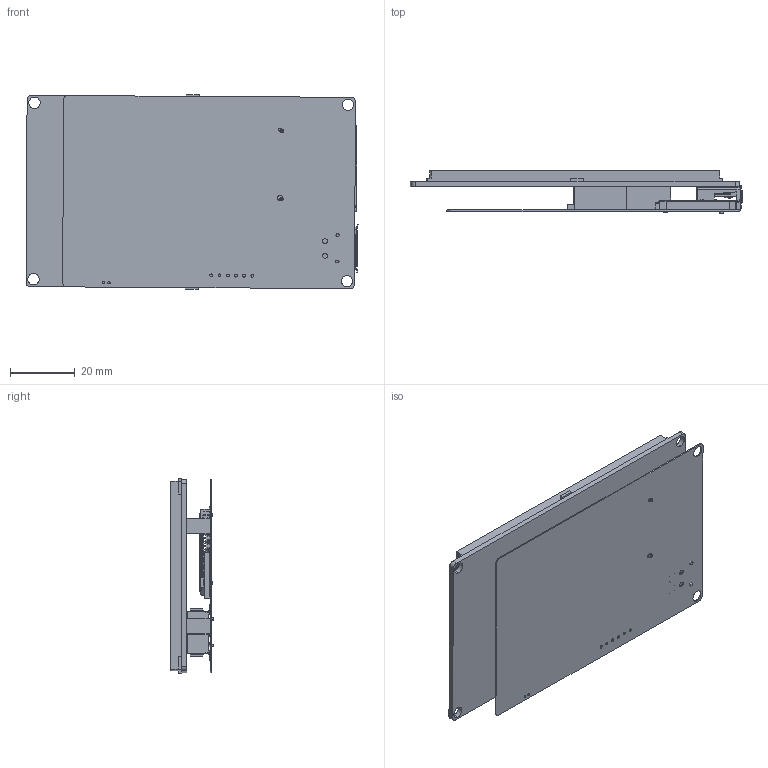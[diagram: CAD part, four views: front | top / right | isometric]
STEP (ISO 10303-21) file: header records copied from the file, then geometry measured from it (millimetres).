
FILE_DESCRIPTION (( 'STEP AP214' ), '1' );
FILE_NAME ('TFT38all.STEP', '2017-06-11T08:09:46', ( '' ), ( '' ), 'SwSTEP 2.0', 'SolidWorks 2016', '' );
FILE_SCHEMA (( 'AUTOMOTIVE_DESIGN' ));
Length unit declared in the file: millimetre
Products named in the file (12): Board_1; USBA_1; U13; Screen207V1; TFT3.8; Extruded_1; U_DISK; U3; 487667936; TFT38all; sd_big_1; 脣釱
Assembly tree (11 placements, depth 5):
  TFT38all
    Screen207V1
      Board_1
      U13
        sd_big_1
      U_DISK
        USBA_1
      U3
        487667936
          Extruded_1
      脣釱
    TFT3.8
Bounding box: 102.41 x 13.25 x 60.02 mm (x, y, z)
Volume: 31672.3 mm3; surface area: 29795.1 mm2
Topology: 7 solids, 7 shells, 922 faces, 2599 edges, 1714 vertices
Faces by surface type: plane 762, cylinder 156, bspline 4
Entity records: 37000 total; most frequent: CARTESIAN_POINT 5362, ORIENTED_EDGE 5198, DIRECTION 4774, EDGE_CURVE 2599, LINE 2266, VECTOR 2266, VERTEX_POINT 1714, AXIS2_PLACEMENT_3D 1254
